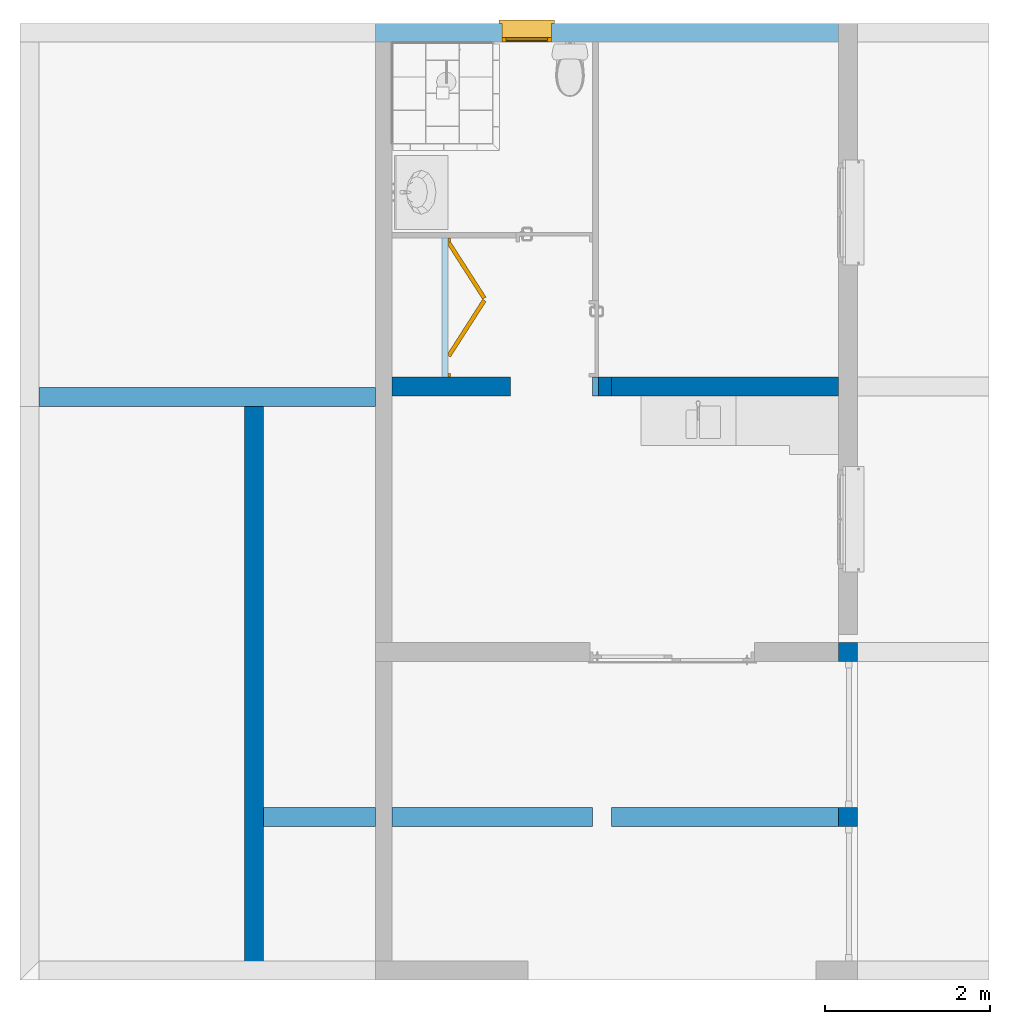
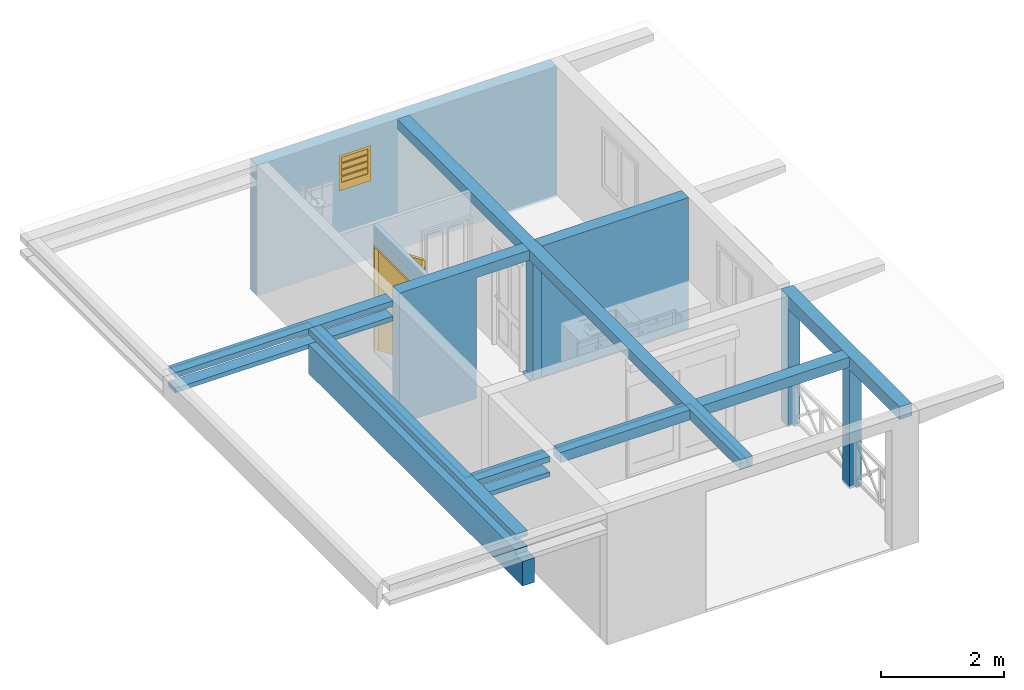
# One storey, part 8 of 13: 7 walls, 1 door, 1 window, 8 openings, plus 2 elements that do not belong to this part.
"""IFC2X3 building model written with IfcOpenShell, lengths in metres."""

from ifc_helpers import new_model, entity, si_unit, converted_unit, derived_unit, money_unit, direction, frame, origin_with_axes, origin_2d_with_axis, place, context, subcontext, project, spatial, polyline, rectangle, outline, extrude, boolean, faceted_brep, material, type_object, element, fill, save


model = new_model("IFC2X3")

# Units and contexts
model_context = context("Model", 3, precision=1e-05, world=origin_with_axes(), true_north=direction((0.0, 1.0)))
body_context = subcontext(model_context, "Body", "Model", "MODEL_VIEW")
ifc_project = project(units=[si_unit("LENGTHUNIT", "METRE"), si_unit("AREAUNIT", "SQUARE_METRE"), si_unit("VOLUMEUNIT", "CUBIC_METRE"), converted_unit("PLANEANGLEUNIT", "DEGREE", entity("IfcPlaneAngleMeasure", 0.0174532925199), si_unit("PLANEANGLEUNIT", "RADIAN"), dimensions=[0, 0, 0, 0, 0, 0, 0]), si_unit("SOLIDANGLEUNIT", "STERADIAN"), money_unit("CHF"), converted_unit("TIMEUNIT", "Year", entity("IfcTimeMeasure", 31556926.0), si_unit("TIMEUNIT", "SECOND"), dimensions=[0, 0, 1, 0, 0, 0, 0]), si_unit("MASSUNIT", "GRAM", prefix="KILO"), si_unit("THERMODYNAMICTEMPERATUREUNIT", "DEGREE_CELSIUS"), si_unit("LUMINOUSINTENSITYUNIT", "LUMEN"), si_unit("ENERGYUNIT", "JOULE", prefix="MEGA"), derived_unit("THERMALCONDUCTANCEUNIT", [(si_unit("POWERUNIT", "WATT"), 1), (si_unit("LENGTHUNIT", "METRE"), -1), (si_unit("THERMODYNAMICTEMPERATUREUNIT", "KELVIN"), -1)]), derived_unit("SPECIFICHEATCAPACITYUNIT", [(si_unit("ENERGYUNIT", "JOULE"), 1), (si_unit("MASSUNIT", "GRAM", prefix="KILO"), -1), (si_unit("THERMODYNAMICTEMPERATUREUNIT", "KELVIN"), -1)]), derived_unit("MASSDENSITYUNIT", [(si_unit("MASSUNIT", "GRAM", prefix="KILO"), 1), (si_unit("VOLUMEUNIT", "CUBIC_METRE"), -1)])], contexts=[model_context])

# Site, building, storey
site_placement = place(None, origin_with_axes())
site = spatial("IfcSite", under=ifc_project, at=site_placement, Name="Site", CompositionType="ELEMENT")
building_placement = place(site_placement, origin_with_axes())
building = spatial("IfcBuilding", under=site, at=building_placement, Name="Bâtiment", CompositionType="ELEMENT")
storey_placement = place(building_placement, origin_with_axes())
storey = spatial("IfcBuildingStorey", under=building, at=storey_placement, Name="SOUS-SOL", CompositionType="ELEMENT", Elevation=0.0)

# Wall, openings
ifc_material = material(Name="Hachure solide 2628782308")
wall_type_1 = type_object("IfcWallType", Name="Hachure solide 2628782308 230", PredefinedType="NOTDEFINED")
wall_1_placement = place(storey_placement, frame((94.9655190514, 11.0503410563, -2.81), z_axis=(0.0, 0.0, 1.0), x_axis=(0.0, -1.0, 0.0)))
wall_1 = element("IfcWall", 1, at=wall_1_placement, inside=storey, type_object=wall_type_1, material=ifc_material, Name="MurExt-012", context=body_context, shape_type="CSG", body=[
    boolean("DIFFERENCE", boolean("DIFFERENCE", extrude(outline(polyline([(-0.23, -0.23), (3.64, -0.23), (3.64, 0.0), (-0.23, 0.0), (-0.23, -0.23)])), origin_with_axes(), (0.0, 0.0, 1.0), 2.62), faceted_brep([(2.00107445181, 0.0, 0.05), (3.64, 0.0, 0.05), (3.64, 0.0, 0.0), (2.00107445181, 0.0, 0.0), (2.00107445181, -0.23, 0.05), (3.64, -0.23, 0.05), (3.64, -0.23, 0.0), (2.00107445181, -0.23, 0.0)], [[[0, 1, 2, 3]], [[1, 0, 4, 5]], [[1, 5, 6, 2]], [[7, 3, 2, 6]], [[0, 3, 7, 4]], [[4, 7, 6, 5]]])), faceted_brep([(-0.23, -0.23, 0.02), (-0.23, 0.0, 0.02), (-0.23, 0.0, 0.0), (-0.23, -0.23, 0.0), (0.0, 0.0, 0.02), (0.0, -0.23, 0.02), (1.77107445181, 0.0, 0.05), (1.77107445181, 0.0, 0.0), (0.0, 0.0, 0.05), (1.77107445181, -0.23, 0.0), (1.77107445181, -0.23, 0.05), (0.0, -0.23, 0.05)], [[[0, 1, 2, 3]], [[4, 1, 0, 5]], [[6, 7, 2, 1, 4, 8]], [[7, 9, 3, 2]], [[5, 0, 3, 9, 10, 11]], [[8, 4, 5, 11]], [[7, 6, 10, 9]], [[6, 8, 11, 10]]])),
])
opening_1_placement = place(wall_1_placement, frame((0.885537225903, 0.0, 0.0), z_axis=(0.0, 0.0, 1.0), x_axis=(1.0, 0.0, 0.0)))
element("IfcOpeningElement", 2, at=opening_1_placement, cuts=wall_1, Name="Por-055", context=body_context, shape_type="SweptSolid", body=[
    extrude(rectangle(XDim=1.77107445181, YDim=2.37, at=origin_2d_with_axis()), frame((0.0, -0.23, 1.185), z_axis=(0.0, 1.0, 0.0), x_axis=(-1.0, 0.0, 0.0)), (0.0, 0.0, 1.0), 0.69),
])
opening_2_placement = place(wall_1_placement, frame((2.82249325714, 0.0, -2.99513622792e-08), z_axis=(0.0, 0.0, 1.0), x_axis=(1.0, 0.0, 0.0)))
element("IfcOpeningElement", 3, at=opening_2_placement, cuts=wall_1, Name="Por-054", context=body_context, shape_type="SweptSolid", body=[
    extrude(rectangle(XDim=1.64283761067, YDim=2.37000002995, at=origin_2d_with_axis()), frame((0.0, -0.23, 1.18500004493), z_axis=(0.0, 1.0, 0.0), x_axis=(-1.0, 0.0, 0.0)), (0.0, 0.0, 1.0), 0.69),
])

# Wall
wall_2_placement = place(storey_placement, frame((87.5135190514, 14.1503410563, -1.07920658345), z_axis=(0.0, 0.0, 1.0), x_axis=(0.0, -1.0, 0.0)))
element("IfcWall", 4, at=wall_2_placement, inside=storey, type_object=wall_type_1, material=ifc_material, Name="MurExt-018", context=body_context, shape_type="CSG", body=[
    boolean("DIFFERENCE", extrude(outline(polyline([(-0.23, 0.0), (6.97, 0.0), (6.97, 0.23), (-0.23, 0.23), (-0.23, 0.0)])), origin_with_axes(), (0.0, 0.0, 1.0), 0.889206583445), faceted_brep([(0.0, 0.0, 0.889206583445), (0.0, 0.23, 0.889206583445), (-0.23, 0.23, 0.889206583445), (-0.23, 0.0, 0.889206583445), (0.0, 0.23, 0.779206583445), (0.0, 0.0, 0.779206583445), (6.74, 0.23, 0.779206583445), (6.74, 0.23, 0.889206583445), (6.97, 0.23, 0.889206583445), (6.97, 0.23, 0.489206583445), (6.74, 0.23, 0.489206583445), (6.74, 0.23, 0.579206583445), (0.0, 0.23, 0.579206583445), (0.0, 0.23, 0.489206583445), (0.0, 0.23, 0.0), (-0.23, 0.23, 0.0), (-0.23, 0.0, 0.0), (0.0, 0.0, 0.0), (0.0, 0.0, 0.489206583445), (0.0, 0.0, 0.579206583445), (6.74, 0.0, 0.579206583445), (6.74, 0.0, 0.489206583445), (6.97, 0.0, 0.489206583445), (6.97, 0.0, 0.889206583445), (6.74, 0.0, 0.889206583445), (6.74, 0.0, 0.779206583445)], [[[0, 1, 2, 3]], [[4, 1, 0, 5]], [[6, 7, 8, 9, 10, 11, 12, 13, 14, 15, 2, 1, 4]], [[2, 15, 16, 3]], [[5, 0, 3, 16, 17, 18, 19, 20, 21, 22, 23, 24, 25]], [[6, 4, 5, 25]], [[24, 7, 6, 25]], [[7, 24, 23, 8]], [[22, 9, 8, 23]], [[10, 9, 22, 21]], [[11, 10, 21, 20]], [[12, 11, 20, 19]], [[13, 12, 19, 18, 17, 14]], [[14, 17, 16, 15]]])),
])

# Wall, opening
wall_3_placement = place(storey_placement, frame((89.1055190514, 9.04926660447, -2.76), z_axis=(0.0, 0.0, 1.0), x_axis=(1.0, 0.0, 0.0)))
wall_3 = element("IfcWall", 5, at=wall_3_placement, inside=storey, type_object=wall_type_1, material=ifc_material, Name="MurExt-006", context=body_context, shape_type="CSG", body=[
    boolean("DIFFERENCE", boolean("DIFFERENCE", boolean("DIFFERENCE", extrude(outline(polyline([(0.0, 0.0), (5.86, 0.0), (5.86, 0.23), (0.0, 0.23), (0.0, 0.0)])), origin_with_axes(), (0.0, 0.0, 1.0), 2.57), faceted_brep([(0.2, 0.0, 2.57), (0.2, 0.23, 2.57), (0.0, 0.23, 2.57), (0.0, 0.0, 2.57), (0.2, 0.23, 0.0), (0.2, 0.0, 0.0), (0.0, 0.23, 0.0), (0.0, 0.0, 0.0)], [[[0, 1, 2, 3]], [[4, 1, 0, 5]], [[1, 4, 6, 2]], [[2, 6, 7, 3]], [[5, 0, 3, 7]], [[4, 5, 7, 6]]])), faceted_brep([(5.63, 0.23, 0.0), (5.63, 0.23, 2.57), (5.86, 0.23, 2.57), (5.86, 0.23, 0.0), (5.63, 0.0, 2.57), (5.63, 0.0, 0.0), (5.86, 0.0, 2.57), (5.86, 0.0, 0.0)], [[[0, 1, 2, 3]], [[4, 1, 0, 5]], [[1, 4, 6, 2]], [[6, 7, 3, 2]], [[5, 0, 3, 7]], [[4, 5, 7, 6]]])), faceted_brep([(2.638, 0.23, 0.0), (2.638, 0.23, 2.57), (2.868, 0.23, 2.57), (2.868, 0.23, 0.0), (2.638, 0.0, 2.57), (2.638, 0.0, 0.0), (2.868, 0.0, 2.57), (2.868, 0.0, 0.0)], [[[0, 1, 2, 3]], [[4, 1, 0, 5]], [[1, 4, 6, 2]], [[3, 2, 6, 7]], [[5, 0, 3, 7]], [[4, 5, 7, 6]]])),
])
opening_3_placement = place(wall_3_placement, frame((2.915, 0.0, 0.0), z_axis=(0.0, 0.0, 1.0), x_axis=(1.0, 0.0, 0.0)))
element("IfcOpeningElement", 6, at=opening_3_placement, cuts=wall_3, Name="Por-024", context=body_context, shape_type="SweptSolid", body=[
    extrude(rectangle(XDim=5.43, YDim=2.37026317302, at=origin_2d_with_axis()), frame((0.0, -0.23, 1.18513158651), z_axis=(0.0, 1.0, 0.0), x_axis=(-1.0, 0.0, 0.0)), (0.0, 0.0, 1.0), 0.69),
])

# Wall, openings
wall_4_placement = place(storey_placement, frame((91.7435190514, 18.5803410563, -2.79), z_axis=(0.0, 0.0, 1.0), x_axis=(0.0, -1.0, 0.0)))
wall_4 = element("IfcWall", 7, at=wall_4_placement, inside=storey, type_object=wall_type_1, material=ifc_material, Name="MurExt-013", context=body_context, shape_type="CSG", body=[
    boolean("DIFFERENCE", extrude(outline(polyline([(0.0, 0.0), (11.17, 0.0), (11.17, 0.23), (0.0, 0.23), (0.0, 0.0)])), origin_with_axes(), (0.0, 0.0, 1.0), 2.6), faceted_brep([(0.0, 0.07, 2.40026317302), (0.0, 0.07, 0.05), (0.0, 0.23, 0.05), (0.0, 0.23, 0.0), (0.0, 0.0, 0.0), (0.0, 0.0, 2.40026317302), (4.4, 0.07, 2.40026317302), (4.4, 0.07, 0.05), (4.29999999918, 0.07, 0.05), (4.06999999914, 0.07, 0.05), (4.06999999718, 0.23, 0.05), (4.06999999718, 0.23, 0.0), (4.07, 0.0, 0.0), (4.4, 0.0, 2.40026317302), (4.07, 0.0, 0.05), (4.3, 0.0, 0.05), (4.3, 0.0, 0.0), (11.17, 0.0, 0.0), (11.17, 0.0, 0.03), (7.53, 0.0, 0.03), (7.53, 0.0, 0.05), (4.4, 0.0, 0.05), (7.53, 0.23, 0.05), (4.29999999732, 0.23, 0.05), (4.29999999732, 0.23, 0.0), (11.17, 0.23, 0.0), (11.17, 0.23, 0.03), (7.53, 0.23, 0.03)], [[[0, 1, 2, 3, 4, 5]], [[1, 0, 6, 7, 8, 9]], [[10, 2, 1, 9]], [[10, 11, 3, 2]], [[11, 12, 4, 3]], [[13, 5, 4, 12, 14, 15, 16, 17, 18, 19, 20, 21]], [[0, 5, 13, 6]], [[13, 21, 7, 6]], [[22, 23, 8, 7, 21, 20]], [[15, 14, 9, 8]], [[11, 10, 9, 14, 12]], [[23, 24, 16, 15, 8]], [[16, 24, 25, 17]], [[26, 18, 17, 25]], [[26, 27, 19, 18]], [[27, 22, 20, 19]], [[27, 26, 25, 24, 23, 22]]])),
])
opening_4_placement = place(wall_4_placement, frame((7.735, 0.0, 0.0), z_axis=(0.0, 0.0, 1.0), x_axis=(1.0, 0.0, 0.0)))
element("IfcOpeningElement", 8, at=opening_4_placement, cuts=wall_4, Name="Por-053", context=body_context, shape_type="SweptSolid", body=[
    extrude(rectangle(XDim=6.87, YDim=2.40026317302, at=origin_2d_with_axis()), frame((0.0, -0.23, 1.20013158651), z_axis=(0.0, -1.0, 0.0), x_axis=(1.0, 0.0, 0.0)), (0.0, 0.0, -1.0), 0.69),
])
opening_5_placement = place(wall_4_placement, frame((2.03499999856, 0.0, -2.54880809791e-08), z_axis=(0.0, 0.0, 1.0), x_axis=(1.0, 0.0, 0.0)))
element("IfcOpeningElement", 9, at=opening_5_placement, cuts=wall_4, Name="Por-053", context=body_context, shape_type="SweptSolid", body=[
    extrude(rectangle(XDim=4.06999999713, YDim=2.40026317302, at=origin_2d_with_axis()), frame((0.0, -0.23, 1.200131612), z_axis=(0.0, -1.0, 0.0), x_axis=(1.0, 0.0, 0.0)), (0.0, 0.0, -1.0), 0.69),
])

# Walls
wall_5_placement = place(storey_placement, frame((84.7835190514, 14.1503410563, -0.59), z_axis=(0.0, 0.0, 1.0), x_axis=(1.0, 0.0, 0.0)))
element("IfcWall", 10, at=wall_5_placement, inside=storey, type_object=wall_type_1, material=ifc_material, Name="MurExt-020", context=body_context, shape_type="CSG", body=[
    boolean("DIFFERENCE", extrude(outline(polyline([(0.0, 0.0), (4.522, 0.0), (4.522, 0.23), (0.0, 0.23), (0.0, 0.0)])), origin_with_axes(), (0.0, 0.0, 1.0), 0.4), faceted_brep([(0.23, 0.23, 0.29), (4.32200009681, 0.23, 0.29), (4.322, 0.23, 0.4), (4.522, 0.23, 0.4), (4.522, 0.23, 0.0), (4.322, 0.23, 0.0), (4.32200009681, 0.23, 0.09), (0.23, 0.23, 0.09), (0.23, 0.23, 0.0), (0.0, 0.23, 0.0), (0.0, 0.23, 0.4), (0.23, 0.23, 0.4), (0.23, 0.0, 0.29), (4.32200009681, 0.0, 0.29), (4.322, 0.0, 0.4), (4.522, 0.0, 0.4), (4.522, 0.0, 0.0), (4.322, 0.0, 0.0), (4.32200009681, 0.0, 0.09), (0.23, 0.0, 0.09), (0.23, 0.0, 0.0), (0.0, 0.0, 0.0), (0.0, 0.0, 0.4), (0.23, 0.0, 0.4)], [[[0, 1, 2, 3, 4, 5, 6, 7, 8, 9, 10, 11]], [[1, 0, 12, 13]], [[14, 2, 1, 13]], [[2, 14, 15, 3]], [[15, 16, 4, 3]], [[17, 5, 4, 16]], [[6, 5, 17, 18]], [[7, 6, 18, 19]], [[8, 7, 19, 20]], [[8, 20, 21, 9]], [[10, 9, 21, 22]], [[23, 11, 10, 22]], [[0, 11, 23, 12]], [[12, 23, 22, 21, 20, 19, 18, 17, 16, 15, 14, 13]]])),
])
wall_6_placement = place(storey_placement, frame((87.5135190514, 9.27926660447, -0.59), z_axis=(0.0, 0.0, 1.0), x_axis=(1.0, 0.0, 0.0)))
element("IfcWall", 11, at=wall_6_placement, inside=storey, type_object=wall_type_1, material=ifc_material, Name="MurExt-020", context=body_context, shape_type="CSG", body=[
    boolean("DIFFERENCE", extrude(outline(polyline([(0.0, -0.23), (1.792, -0.23), (1.792, 0.0), (0.0, 0.0), (0.0, -0.23)])), origin_with_axes(), (0.0, 0.0, 1.0), 0.4), faceted_brep([(0.23, 0.0, 0.29), (1.59200009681, 0.0, 0.29), (1.592, 0.0, 0.4), (1.792, 0.0, 0.4), (1.792, 0.0, 0.0), (1.592, 0.0, 0.0), (1.59200009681, 0.0, 0.09), (0.23, 0.0, 0.09), (0.23, 0.0, 0.0), (0.0, 0.0, 0.0), (0.0, 0.0, 0.4), (0.23, 0.0, 0.4), (0.23, -0.23, 0.29), (1.59200009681, -0.23, 0.29), (1.592, -0.23, 0.4), (1.792, -0.23, 0.4), (1.792, -0.23, 0.0), (1.592, -0.23, 0.0), (1.59200009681, -0.23, 0.09), (0.23, -0.23, 0.09), (0.23, -0.23, 0.0), (0.0, -0.23, 0.0), (0.0, -0.23, 0.4), (0.23, -0.23, 0.4)], [[[0, 1, 2, 3, 4, 5, 6, 7, 8, 9, 10, 11]], [[1, 0, 12, 13]], [[14, 2, 1, 13]], [[2, 14, 15, 3]], [[15, 16, 4, 3]], [[17, 5, 4, 16]], [[6, 5, 17, 18]], [[7, 6, 18, 19]], [[8, 7, 19, 20]], [[8, 20, 21, 9]], [[10, 9, 21, 22]], [[23, 11, 10, 22]], [[0, 11, 23, 12]], [[12, 23, 22, 21, 20, 19, 18, 17, 16, 15, 14, 13]]])),
])

# Wall, opening, window
wall_7_placement = place(storey_placement, frame((94.9655190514, 18.8103410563, -2.79), z_axis=(0.0, 0.0, 1.0), x_axis=(-1.0, 0.0, 0.0)))
wall_7 = element("IfcWall", 12, at=wall_7_placement, inside=storey, type_object=wall_type_1, material=ifc_material, Name="MurExt-006", context=body_context, shape_type="CSG", body=[
    boolean("DIFFERENCE", extrude(outline(polyline([(0.0, 0.0), (5.86, 0.0), (5.86, 0.23), (0.0, 0.23), (0.0, 0.0)])), origin_with_axes(), (0.0, 0.0, 1.0), 2.6), faceted_brep([(0.23, 0.0, 0.0), (0.23, 0.0, 2.6), (0.0, 0.0, 2.6), (0.0, 0.0, 0.0), (0.23, 0.23, 2.6), (0.23, 0.23, 0.0), (0.0, 0.23, 2.6), (0.0, 0.23, 0.0)], [[[0, 1, 2, 3]], [[4, 1, 0, 5]], [[1, 4, 6, 2]], [[6, 7, 3, 2]], [[5, 0, 3, 7]], [[4, 5, 7, 6]]])),
])
opening_6_placement = place(wall_7_placement, frame((4.0221695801, 0.0, 1.65), z_axis=(0.0, 0.0, 1.0), x_axis=(1.0, 0.0, 0.0)))
opening_6 = element("IfcOpeningElement", 13, at=opening_6_placement, cuts=wall_7, Name="Fen-032", context=body_context, shape_type="SweptSolid", body=[
    extrude(outline(polyline([(0.3, 0.1), (-0.3, 0.1), (-0.3, -0.6), (0.3, -0.6), (0.3, 0.1)])), frame((0.0, 0.23, 0.0), z_axis=(0.0, 1.0, 0.0), x_axis=(1.0, 0.0, 0.0)), (0.0, 0.0, -1.0), 0.46),
])
window_style = type_object("IfcWindowStyle", Name="Baie_fixe", ConstructionType="NOTDEFINED", OperationType="NOTDEFINED", ParameterTakesPrecedence=False, Sizeable=False)
window_placement = place(opening_6_placement, frame((0.3, 0.0, 0.0), z_axis=(0.0, 0.0, 1.0), x_axis=(-1.0, 0.0, 0.0)))
window = element("IfcWindow", 14, at=window_placement, inside=storey, type_object=window_style, Name="Fen-032", OverallHeight=0.6, OverallWidth=0.6, context=body_context, shape_type="Brep", body=[
    faceted_brep([(0.6, -0.23, -0.1), (0.55, -0.23, -0.1), (0.55, -0.17, -0.1), (0.6, -0.17, -0.1), (0.6, -0.23, 0.6), (0.0, -0.23, 0.6), (0.0, -0.23, -0.1), (0.05, -0.23, -0.1), (0.05, -0.23, 0.05), (0.05, -0.23, 0.55), (0.55, -0.23, 0.55), (0.55, -0.23, 0.05), (0.55, -0.17, 0.05), (0.55, -0.17, 0.55), (0.05, -0.17, 0.55), (0.05, -0.17, 0.05), (0.05, -0.17, -0.1), (0.0, -0.17, -0.1), (0.0, -0.17, 0.6), (0.6, -0.17, 0.6)], [[[0, 1, 2, 3]], [[0, 4, 5, 6, 7, 8, 9, 10, 11, 1]], [[1, 11, 12, 2]], [[3, 2, 12, 13, 14, 15, 16, 17, 18, 19]], [[4, 0, 3, 19]], [[5, 4, 19, 18]], [[6, 5, 18, 17]], [[7, 6, 17, 16]], [[8, 7, 16, 15]], [[9, 8, 15, 14]], [[10, 9, 14, 13]], [[11, 10, 13, 12]]]),
    faceted_brep([(0.05, -0.23, -0.1), (0.05, -0.23, 0.05), (0.05, -0.17, 0.05), (0.05, -0.17, -0.1), (0.55, -0.23, -0.1), (0.55, -0.23, 0.05), (0.55, -0.17, 0.05), (0.55, -0.17, -0.1)], [[[0, 1, 2, 3]], [[0, 4, 5, 1]], [[1, 5, 6, 2]], [[3, 2, 6, 7]], [[4, 0, 3, 7]], [[5, 4, 7, 6]]]),
    faceted_brep([(0.05, -0.2125, 0.05), (0.05, -0.2125, 0.5499), (0.05, -0.2075, 0.5499), (0.05, -0.2075, 0.05), (0.55, -0.2125, 0.05), (0.55, -0.2125, 0.5499), (0.55, -0.2075, 0.5499), (0.55, -0.2075, 0.05)], [[[0, 1, 2, 3]], [[0, 4, 5, 1]], [[1, 5, 6, 2]], [[3, 2, 6, 7]], [[4, 0, 3, 7]], [[5, 4, 7, 6]]]),
    faceted_brep([(0.05, -0.2125, 0.44), (0.05, -0.2125, 0.42), (0.05, -0.2275, 0.42), (0.05, -0.2275, 0.44), (0.55, -0.2125, 0.44), (0.55, -0.2125, 0.42), (0.55, -0.2275, 0.42), (0.55, -0.2275, 0.44)], [[[0, 1, 2, 3]], [[4, 5, 1, 0]], [[2, 1, 5, 6]], [[3, 2, 6, 7]], [[7, 4, 0, 3]], [[7, 6, 5, 4]]]),
    faceted_brep([(0.05, -0.2275, 0.29), (0.05, -0.2275, 0.31), (0.05, -0.2125, 0.31), (0.05, -0.2125, 0.29), (0.55, -0.2275, 0.29), (0.55, -0.2275, 0.31), (0.55, -0.2125, 0.31), (0.55, -0.2125, 0.29)], [[[0, 1, 2, 3]], [[4, 5, 1, 0]], [[2, 1, 5, 6]], [[3, 2, 6, 7]], [[7, 4, 0, 3]], [[7, 6, 5, 4]]]),
    faceted_brep([(0.05, -0.2125, 0.18), (0.05, -0.2125, 0.16), (0.05, -0.2275, 0.16), (0.05, -0.2275, 0.18), (0.55, -0.2125, 0.18), (0.55, -0.2125, 0.16), (0.55, -0.2275, 0.16), (0.55, -0.2275, 0.18)], [[[0, 1, 2, 3]], [[4, 5, 1, 0]], [[2, 1, 5, 6]], [[3, 2, 6, 7]], [[7, 4, 0, 3]], [[7, 6, 5, 4]]]),
    faceted_brep([(0.05, -0.1925, 0.44), (0.05, -0.1925, 0.42), (0.05, -0.2075, 0.42), (0.05, -0.2075, 0.44), (0.55, -0.1925, 0.44), (0.55, -0.1925, 0.42), (0.55, -0.2075, 0.42), (0.55, -0.2075, 0.44)], [[[0, 1, 2, 3]], [[4, 5, 1, 0]], [[2, 1, 5, 6]], [[3, 2, 6, 7]], [[7, 4, 0, 3]], [[7, 6, 5, 4]]]),
    faceted_brep([(0.05, -0.2075, 0.29), (0.05, -0.2075, 0.31), (0.05, -0.1925, 0.31), (0.05, -0.1925, 0.29), (0.55, -0.2075, 0.29), (0.55, -0.2075, 0.31), (0.55, -0.1925, 0.31), (0.55, -0.1925, 0.29)], [[[0, 1, 2, 3]], [[4, 5, 1, 0]], [[2, 1, 5, 6]], [[3, 2, 6, 7]], [[7, 4, 0, 3]], [[7, 6, 5, 4]]]),
    faceted_brep([(0.05, -0.1925, 0.18), (0.05, -0.1925, 0.16), (0.05, -0.2075, 0.16), (0.05, -0.2075, 0.18), (0.55, -0.1925, 0.18), (0.55, -0.1925, 0.16), (0.55, -0.2075, 0.16), (0.55, -0.2075, 0.18)], [[[0, 1, 2, 3]], [[4, 5, 1, 0]], [[2, 1, 5, 6]], [[3, 2, 6, 7]], [[7, 4, 0, 3]], [[7, 6, 5, 4]]]),
    faceted_brep([(0.0, -0.23, -0.1), (0.0, -0.23, 0.0), (0.0, -0.17, 0.0), (0.0, -0.17, -0.1), (0.6, -0.23, -0.1), (0.6, -0.23, 0.0), (0.6, -0.17, 0.0), (0.6, -0.17, -0.1)], [[[0, 1, 2, 3]], [[0, 4, 5, 1]], [[1, 5, 6, 2]], [[3, 2, 6, 7]], [[4, 0, 3, 7]], [[5, 4, 7, 6]]]),
    faceted_brep([(-0.04, 0.04, -0.1), (-0.04, 0.0, -0.1), (-0.04, 0.0, -0.052380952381), (-0.04, 0.04, -0.06), (0.64, 0.04, -0.1), (0.64, 0.0, -0.1), (0.6, 0.0, -0.1), (0.6, -0.17, -0.1), (0.0, -0.17, -0.1), (0.0, 0.0, -0.1), (0.0, 0.0, -0.052380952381), (0.0, -0.17, -0.02), (0.6, -0.17, -0.02), (0.6, 0.0, -0.052380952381), (0.64, 0.0, -0.052380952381), (0.64, 0.04, -0.06)], [[[0, 1, 2, 3]], [[0, 4, 5, 6, 7, 8, 9, 1]], [[1, 9, 10, 2]], [[3, 2, 10, 11, 12, 13, 14, 15]], [[4, 0, 3, 15]], [[5, 4, 15, 14]], [[6, 5, 14, 13]], [[7, 6, 13, 12]], [[8, 7, 12, 11]], [[9, 8, 11, 10]]]),
])
fill(opening_6, window)

# Wall, opening
wall_8_placement = place(storey_placement, frame((89.1055190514, 14.5103410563, -2.79), z_axis=(0.0, 0.0, 1.0), x_axis=(1.0, 0.0, 0.0)))
wall_8 = element("IfcWall", 15, at=wall_8_placement, inside=storey, type_object=wall_type_1, material=ifc_material, Name="MurExt-006", context=body_context, shape_type="CSG", body=[
    boolean("DIFFERENCE", boolean("DIFFERENCE", boolean("DIFFERENCE", extrude(outline(polyline([(0.0, -0.23), (5.86, -0.23), (5.86, 0.0), (0.0, 0.0), (0.0, -0.23)])), origin_with_axes(), (0.0, 0.0, 1.0), 2.6), faceted_brep([(0.2, -0.23, 2.6), (0.2, 0.0, 2.6), (0.0, 0.0, 2.6), (0.0, -0.23, 2.6), (0.2, 0.0, 0.0), (0.2, -0.23, 0.0), (0.0, 0.0, 0.0), (0.0, -0.23, 0.0)], [[[0, 1, 2, 3]], [[4, 1, 0, 5]], [[1, 4, 6, 2]], [[2, 6, 7, 3]], [[5, 0, 3, 7]], [[4, 5, 7, 6]]])), faceted_brep([(2.868, -0.23, 2.6), (2.868, 0.0, 2.6), (2.638, 0.0, 2.6), (2.638, -0.23, 2.6), (2.868, 0.0, 0.0), (2.868, -0.23, 0.0), (1.638, 0.0, 0.0), (1.638, 0.0, 0.05), (2.638, 0.0, 0.05), (2.638, -0.23, 0.05), (1.638, -0.23, 0.05), (1.638, -0.23, 0.0)], [[[0, 1, 2, 3]], [[4, 1, 0, 5]], [[1, 4, 6, 7, 8, 2]], [[3, 2, 8, 9]], [[5, 0, 3, 9, 10, 11]], [[4, 5, 11, 6]], [[7, 6, 11, 10]], [[8, 7, 10, 9]]])), faceted_brep([(5.63, 0.0, 0.0), (5.63, 0.0, 2.6), (5.86, 0.0, 2.6), (5.86, 0.0, 0.0), (5.63, -0.23, 2.6), (5.63, -0.23, 0.0), (5.86, -0.23, 2.6), (5.86, -0.23, 0.0)], [[[0, 1, 2, 3]], [[4, 1, 0, 5]], [[1, 4, 6, 2]], [[6, 7, 3, 2]], [[5, 0, 3, 7]], [[4, 5, 7, 6]]])),
])
opening_7_placement = place(wall_8_placement, frame((2.138, 0.0, 0.0), z_axis=(0.0, 0.0, 1.0), x_axis=(1.0, 0.0, 0.0)))
element("IfcOpeningElement", 16, at=opening_7_placement, cuts=wall_8, Name="Por-050", context=body_context, shape_type="SweptSolid", body=[
    extrude(rectangle(XDim=1.0, YDim=2.40026317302, at=origin_2d_with_axis()), frame((0.0, -0.23, 1.20013158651), z_axis=(0.0, -1.0, 0.0), x_axis=(1.0, 0.0, 0.0)), (0.0, 0.0, -1.0), 0.69),
])

# Wall, opening, door
wall_type_2 = type_object("IfcWallType", Name="Hachure solide 2628782308 70", PredefinedType="NOTDEFINED")
wall_9_placement = place(storey_placement, frame((89.9855190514, 16.2675249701, -2.74), z_axis=(0.0, 0.0, 1.0), x_axis=(0.0, -1.0, 0.0)))
wall_9 = element("IfcWall", 17, at=wall_9_placement, inside=storey, type_object=wall_type_2, material=ifc_material, Name="MurExt-004", context=body_context, shape_type="CSG", body=[
    boolean("DIFFERENCE", extrude(outline(polyline([(0.0, -0.07), (1.7552722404, -0.07), (1.7552722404, 0.0), (0.0, 0.0), (0.0, -0.07)])), origin_with_axes(), (0.0, 0.0, 1.0), 2.55), faceted_brep([(0.07, -0.07, 2.55), (0.07, 0.0, 2.55), (0.0, 0.0, 2.55), (0.0, -0.07, 2.55), (0.07, 0.0, 0.0), (0.07, -0.07, 0.0), (0.0, 0.0, 0.0), (0.0, -0.07, 0.0)], [[[0, 1, 2, 3]], [[4, 1, 0, 5]], [[1, 4, 6, 2]], [[2, 6, 7, 3]], [[5, 0, 3, 7]], [[4, 5, 7, 6]]])),
])
opening_8_placement = place(wall_9_placement, frame((0.912636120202, 0.0, 0.05), z_axis=(0.0, 0.0, 1.0), x_axis=(1.0, 0.0, 0.0)))
opening_8 = element("IfcOpeningElement", 18, at=opening_8_placement, cuts=wall_9, Name="Por-056", context=body_context, shape_type="SweptSolid", body=[
    extrude(rectangle(XDim=1.6852722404, YDim=2.1, at=origin_2d_with_axis()), frame((0.0, 0.07, 1.05), z_axis=(0.0, 1.0, 0.0), x_axis=(-1.0, 0.0, 0.0)), (0.0, 0.0, -1.0), 0.21),
])
door_style = type_object("IfcDoorStyle", Name="Porte pliante coulissante panneaux multiples 24", ConstructionType="NOTDEFINED", OperationType="USERDEFINED", ParameterTakesPrecedence=False, Sizeable=False)
door_placement = place(opening_8_placement, frame((-0.842636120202, 0.0, 0.0), z_axis=(0.0, 0.0, 1.0), x_axis=(1.0, 0.0, 0.0)))
door = element("IfcDoor", 19, at=door_placement, inside=storey, type_object=door_style, Name="Por-056", OverallHeight=2.1, OverallWidth=1.68527, context=body_context, shape_type="Brep", body=[
    faceted_brep([(1.6852722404, 0.03, 0.0), (1.6852722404, -0.07, 0.0), (1.6452722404, -0.07, 0.0), (1.6452722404, 0.03, 0.0), (1.6852722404, 0.03, 2.06), (1.6852722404, -0.07, 2.06), (1.6452722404, -0.07, 2.06), (1.6452722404, 0.03, 2.06)], [[[0, 1, 2, 3]], [[4, 5, 1, 0]], [[1, 5, 6, 2]], [[3, 2, 6, 7]], [[0, 3, 7, 4]], [[7, 6, 5, 4]]]),
    faceted_brep([(0.0, 0.03, 0.0), (0.0, -0.07, 0.0), (0.0, -0.07, 2.06), (0.0, 0.03, 2.06), (0.04, 0.03, 0.0), (0.04, -0.07, 0.0), (0.04, -0.07, 2.06), (0.04, 0.03, 2.06)], [[[0, 1, 2, 3]], [[4, 5, 1, 0]], [[1, 5, 6, 2]], [[3, 2, 6, 7]], [[0, 3, 7, 4]], [[7, 6, 5, 4]]]),
    faceted_brep([(1.6852722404, 0.03, 2.1), (1.6852722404, -0.07, 2.1), (1.6852722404, -0.07, 2.06), (1.6852722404, 0.03, 2.06), (0.0, 0.03, 2.1), (0.0, -0.07, 2.1), (0.0, -0.07, 2.06), (0.04, -0.07, 2.06), (1.6452722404, -0.07, 2.06), (1.6452722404, 0.03, 2.06), (0.04, 0.03, 2.06), (0.0, 0.03, 2.06)], [[[0, 1, 2, 3]], [[4, 5, 1, 0]], [[1, 5, 6, 7, 8, 2]], [[3, 2, 8, 9]], [[0, 3, 9, 10, 11, 4]], [[11, 6, 5, 4]], [[10, 7, 6, 11]], [[9, 8, 7, 10]]]),
    faceted_brep([(0.715645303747, 0.463276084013, 0.0), (0.742636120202, 0.421186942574, 0.0), (0.0669908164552, -0.0120891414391, 0.0), (0.04, 0.03, 0.0), (0.715645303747, 0.463276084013, 2.06), (0.742636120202, 0.421186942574, 2.06), (0.0669908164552, -0.0120891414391, 2.06), (0.04, 0.03, 2.06)], [[[0, 1, 2, 3]], [[4, 5, 1, 0]], [[1, 5, 6, 2]], [[3, 2, 6, 7]], [[0, 3, 7, 4]], [[7, 6, 5, 4]]]),
    faceted_brep([(1.4452722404, 0.03, 0.0), (1.41828142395, -0.0120891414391, 0.0), (0.742636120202, 0.421186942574, 0.0), (0.769626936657, 0.463276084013, 0.0), (1.4452722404, 0.03, 2.06), (1.41828142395, -0.0120891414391, 2.06), (0.742636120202, 0.421186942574, 2.06), (0.769626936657, 0.463276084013, 2.06)], [[[0, 1, 2, 3]], [[4, 5, 1, 0]], [[1, 5, 6, 2]], [[3, 2, 6, 7]], [[0, 3, 7, 4]], [[7, 6, 5, 4]]]),
])
fill(opening_8, door)

save(model, "model.ifc")
